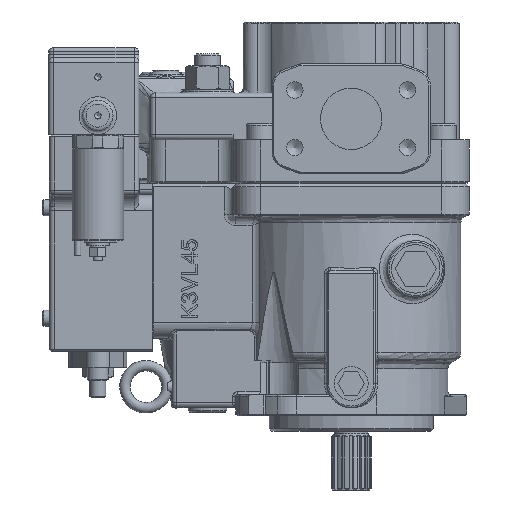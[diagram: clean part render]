
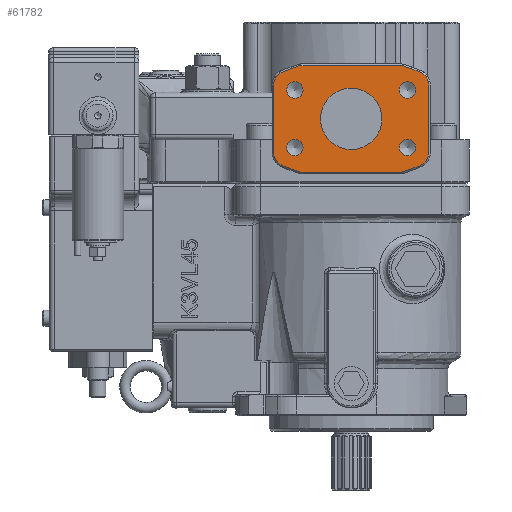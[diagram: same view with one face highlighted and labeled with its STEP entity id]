
A CAD part, left-side view. The second image highlights one B-rep face of the part: STEP entity #61782.
In plain terms, the highlighted planar face has unit normal (-1, 0, 0).
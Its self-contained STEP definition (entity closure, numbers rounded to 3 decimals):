
#61412=CARTESIAN_POINT('',(-80.,0.,212.7));
#61413=VERTEX_POINT('',#61412);
#61414=CARTESIAN_POINT('',(-80.,0.,193.7));
#61415=DIRECTION('',(1.0,0.0,0.0));
#61416=DIRECTION('',(0.0,0.0,-1.0));
#61417=AXIS2_PLACEMENT_3D('',#61414,#61415,#61416);
#61418=CIRCLE('',#61417,19.0);
#61419=EDGE_CURVE('',#61413,#61413,#61418,.T.);
#61592=CARTESIAN_POINT('',(-80.,0.,193.7));
#61593=DIRECTION('',(1.0,0.0,0.0));
#61594=DIRECTION('',(0.0,0.0,-1.0));
#61595=AXIS2_PLACEMENT_3D('',#61592,#61593,#61594);
#61596=PLANE('',#61595);
#61597=CARTESIAN_POINT('',(-80.,48.,214.51));
#61598=VERTEX_POINT('',#61597);
#61599=CARTESIAN_POINT('',(-80.,42.078,222.968));
#61600=VERTEX_POINT('',#61599);
#61601=CARTESIAN_POINT('',(-80.,39.,214.51));
#61602=DIRECTION('',(1.0,0.,0.));
#61603=DIRECTION('',(0.,0.819,0.574));
#61604=AXIS2_PLACEMENT_3D('',#61601,#61602,#61603);
#61605=CIRCLE('',#61604,9.);
#61606=EDGE_CURVE('',#61598,#61600,#61605,.T.);
#61607=ORIENTED_EDGE('',*,*,#61606,.F.);
#61608=CARTESIAN_POINT('',(-80.,48.,172.89));
#61609=VERTEX_POINT('',#61608);
#61610=CARTESIAN_POINT('',(-80.,48.,172.89));
#61611=DIRECTION('',(0.0,0.0,1.0));
#61612=VECTOR('',#61611,41.621);
#61613=LINE('',#61610,#61612);
#61614=EDGE_CURVE('',#61609,#61598,#61613,.T.);
#61615=ORIENTED_EDGE('',*,*,#61614,.F.);
#61616=CARTESIAN_POINT('',(-80.,42.078,164.432));
#61617=VERTEX_POINT('',#61616);
#61618=CARTESIAN_POINT('',(-80.,39.,172.89));
#61619=DIRECTION('',(1.0,0.,0.));
#61620=DIRECTION('',(0.,0.819,-0.574));
#61621=AXIS2_PLACEMENT_3D('',#61618,#61619,#61620);
#61622=CIRCLE('',#61621,9.0);
#61623=EDGE_CURVE('',#61617,#61609,#61622,.T.);
#61624=ORIENTED_EDGE('',*,*,#61623,.F.);
#61625=CARTESIAN_POINT('',(-80.,32.486,160.941));
#61626=VERTEX_POINT('',#61625);
#61627=CARTESIAN_POINT('',(-80.,32.486,160.941));
#61628=DIRECTION('',(0.0,0.94,0.342));
#61629=VECTOR('',#61628,10.207);
#61630=LINE('',#61627,#61629);
#61631=EDGE_CURVE('',#61626,#61617,#61630,.T.);
#61632=ORIENTED_EDGE('',*,*,#61631,.F.);
#61633=CARTESIAN_POINT('',(-80.,31.118,160.7));
#61634=VERTEX_POINT('',#61633);
#61635=CARTESIAN_POINT('',(-80.,31.118,164.7));
#61636=DIRECTION('',(1.0,0.,0.));
#61637=DIRECTION('',(0.,0.174,-0.985));
#61638=AXIS2_PLACEMENT_3D('',#61635,#61636,#61637);
#61639=CIRCLE('',#61638,4.);
#61640=EDGE_CURVE('',#61634,#61626,#61639,.T.);
#61641=ORIENTED_EDGE('',*,*,#61640,.F.);
#61642=CARTESIAN_POINT('',(-80.,-31.118,160.7));
#61643=VERTEX_POINT('',#61642);
#61644=CARTESIAN_POINT('',(-80.,-31.118,160.7));
#61645=DIRECTION('',(0.0,1.0,0.0));
#61646=VECTOR('',#61645,62.237);
#61647=LINE('',#61644,#61646);
#61648=EDGE_CURVE('',#61643,#61634,#61647,.T.);
#61649=ORIENTED_EDGE('',*,*,#61648,.F.);
#61650=CARTESIAN_POINT('',(-80.,-32.486,160.941));
#61651=VERTEX_POINT('',#61650);
#61652=CARTESIAN_POINT('',(-80.,-31.118,164.7));
#61653=DIRECTION('',(1.,0.,0.));
#61654=DIRECTION('',(0.,-0.174,-0.985));
#61655=AXIS2_PLACEMENT_3D('',#61652,#61653,#61654);
#61656=CIRCLE('',#61655,4.);
#61657=EDGE_CURVE('',#61651,#61643,#61656,.T.);
#61658=ORIENTED_EDGE('',*,*,#61657,.F.);
#61659=CARTESIAN_POINT('',(-80.,-42.078,164.432));
#61660=VERTEX_POINT('',#61659);
#61661=CARTESIAN_POINT('',(-80.,-42.078,164.432));
#61662=DIRECTION('',(0.0,0.94,-0.342));
#61663=VECTOR('',#61662,10.207);
#61664=LINE('',#61661,#61663);
#61665=EDGE_CURVE('',#61660,#61651,#61664,.T.);
#61666=ORIENTED_EDGE('',*,*,#61665,.F.);
#61667=CARTESIAN_POINT('',(-80.,-48.,172.89));
#61668=VERTEX_POINT('',#61667);
#61669=CARTESIAN_POINT('',(-80.,-39.,172.89));
#61670=DIRECTION('',(1.0,0.,0.));
#61671=DIRECTION('',(0.,-0.819,-0.574));
#61672=AXIS2_PLACEMENT_3D('',#61669,#61670,#61671);
#61673=CIRCLE('',#61672,9.0);
#61674=EDGE_CURVE('',#61668,#61660,#61673,.T.);
#61675=ORIENTED_EDGE('',*,*,#61674,.F.);
#61676=CARTESIAN_POINT('',(-80.,-48.,214.51));
#61677=VERTEX_POINT('',#61676);
#61678=CARTESIAN_POINT('',(-80.,-48.,214.51));
#61679=DIRECTION('',(0.0,0.0,-1.0));
#61680=VECTOR('',#61679,41.621);
#61681=LINE('',#61678,#61680);
#61682=EDGE_CURVE('',#61677,#61668,#61681,.T.);
#61683=ORIENTED_EDGE('',*,*,#61682,.F.);
#61684=CARTESIAN_POINT('',(-80.,-42.078,222.968));
#61685=VERTEX_POINT('',#61684);
#61686=CARTESIAN_POINT('',(-80.,-39.,214.51));
#61687=DIRECTION('',(1.0,0.,0.));
#61688=DIRECTION('',(0.,-0.819,0.574));
#61689=AXIS2_PLACEMENT_3D('',#61686,#61687,#61688);
#61690=CIRCLE('',#61689,9.);
#61691=EDGE_CURVE('',#61685,#61677,#61690,.T.);
#61692=ORIENTED_EDGE('',*,*,#61691,.F.);
#61693=CARTESIAN_POINT('',(-80.,-32.486,226.459));
#61694=VERTEX_POINT('',#61693);
#61695=CARTESIAN_POINT('',(-80.,-32.486,226.459));
#61696=DIRECTION('',(0.0,-0.94,-0.342));
#61697=VECTOR('',#61696,10.207);
#61698=LINE('',#61695,#61697);
#61699=EDGE_CURVE('',#61694,#61685,#61698,.T.);
#61700=ORIENTED_EDGE('',*,*,#61699,.F.);
#61701=CARTESIAN_POINT('',(-80.,-31.118,226.7));
#61702=VERTEX_POINT('',#61701);
#61703=CARTESIAN_POINT('',(-80.,-31.118,222.7));
#61704=DIRECTION('',(1.0,0.,0.));
#61705=DIRECTION('',(0.,-0.174,0.985));
#61706=AXIS2_PLACEMENT_3D('',#61703,#61704,#61705);
#61707=CIRCLE('',#61706,4.0);
#61708=EDGE_CURVE('',#61702,#61694,#61707,.T.);
#61709=ORIENTED_EDGE('',*,*,#61708,.F.);
#61710=CARTESIAN_POINT('',(-80.,31.118,226.7));
#61711=VERTEX_POINT('',#61710);
#61712=CARTESIAN_POINT('',(-80.,31.118,226.7));
#61713=DIRECTION('',(0.0,-1.0,0.0));
#61714=VECTOR('',#61713,62.237);
#61715=LINE('',#61712,#61714);
#61716=EDGE_CURVE('',#61711,#61702,#61715,.T.);
#61717=ORIENTED_EDGE('',*,*,#61716,.F.);
#61718=CARTESIAN_POINT('',(-80.,32.486,226.459));
#61719=VERTEX_POINT('',#61718);
#61720=CARTESIAN_POINT('',(-80.,31.118,222.7));
#61721=DIRECTION('',(1.0,0.,0.));
#61722=DIRECTION('',(0.,0.174,0.985));
#61723=AXIS2_PLACEMENT_3D('',#61720,#61721,#61722);
#61724=CIRCLE('',#61723,4.);
#61725=EDGE_CURVE('',#61719,#61711,#61724,.T.);
#61726=ORIENTED_EDGE('',*,*,#61725,.F.);
#61727=CARTESIAN_POINT('',(-80.,42.078,222.968));
#61728=DIRECTION('',(0.0,-0.94,0.342));
#61729=VECTOR('',#61728,10.207);
#61730=LINE('',#61727,#61729);
#61731=EDGE_CURVE('',#61600,#61719,#61730,.T.);
#61732=ORIENTED_EDGE('',*,*,#61731,.F.);
#61733=EDGE_LOOP('',(#61607,#61615,#61624,#61632,#61641,#61649,#61658,#61666,#61675,#61683,#61692,#61700,#61709,#61717,#61726,#61732));
#61734=FACE_OUTER_BOUND('',#61733,.T.);
#61735=CARTESIAN_POINT('',(-80.,-34.9,216.603));
#61736=VERTEX_POINT('',#61735);
#61737=CARTESIAN_POINT('',(-80.,-34.9,211.55));
#61738=DIRECTION('',(1.0,0.0,0.0));
#61739=DIRECTION('',(0.0,0.0,1.0));
#61740=AXIS2_PLACEMENT_3D('',#61737,#61738,#61739);
#61741=CIRCLE('',#61740,5.053);
#61742=EDGE_CURVE('',#61736,#61736,#61741,.T.);
#61743=ORIENTED_EDGE('',*,*,#61742,.T.);
#61744=EDGE_LOOP('',(#61743));
#61745=FACE_BOUND('',#61744,.T.);
#61746=CARTESIAN_POINT('',(-80.,34.9,180.903));
#61747=VERTEX_POINT('',#61746);
#61748=CARTESIAN_POINT('',(-80.,34.9,175.85));
#61749=DIRECTION('',(1.0,0.0,0.0));
#61750=DIRECTION('',(0.0,0.0,1.0));
#61751=AXIS2_PLACEMENT_3D('',#61748,#61749,#61750);
#61752=CIRCLE('',#61751,5.053);
#61753=EDGE_CURVE('',#61747,#61747,#61752,.T.);
#61754=ORIENTED_EDGE('',*,*,#61753,.T.);
#61755=EDGE_LOOP('',(#61754));
#61756=FACE_BOUND('',#61755,.T.);
#61757=CARTESIAN_POINT('',(-80.,34.9,216.603));
#61758=VERTEX_POINT('',#61757);
#61759=CARTESIAN_POINT('',(-80.,34.9,211.55));
#61760=DIRECTION('',(1.0,0.0,0.0));
#61761=DIRECTION('',(0.0,0.0,1.0));
#61762=AXIS2_PLACEMENT_3D('',#61759,#61760,#61761);
#61763=CIRCLE('',#61762,5.053);
#61764=EDGE_CURVE('',#61758,#61758,#61763,.T.);
#61765=ORIENTED_EDGE('',*,*,#61764,.T.);
#61766=EDGE_LOOP('',(#61765));
#61767=FACE_BOUND('',#61766,.T.);
#61768=CARTESIAN_POINT('',(-80.,-34.9,180.903));
#61769=VERTEX_POINT('',#61768);
#61770=CARTESIAN_POINT('',(-80.,-34.9,175.85));
#61771=DIRECTION('',(1.0,0.0,0.0));
#61772=DIRECTION('',(0.0,0.0,1.0));
#61773=AXIS2_PLACEMENT_3D('',#61770,#61771,#61772);
#61774=CIRCLE('',#61773,5.053);
#61775=EDGE_CURVE('',#61769,#61769,#61774,.T.);
#61776=ORIENTED_EDGE('',*,*,#61775,.T.);
#61777=EDGE_LOOP('',(#61776));
#61778=FACE_BOUND('',#61777,.T.);
#61779=ORIENTED_EDGE('',*,*,#61419,.T.);
#61780=EDGE_LOOP('',(#61779));
#61781=FACE_BOUND('',#61780,.T.);
#61782=ADVANCED_FACE('',(#61734,#61745,#61756,#61767,#61778,#61781),#61596,.F.);
